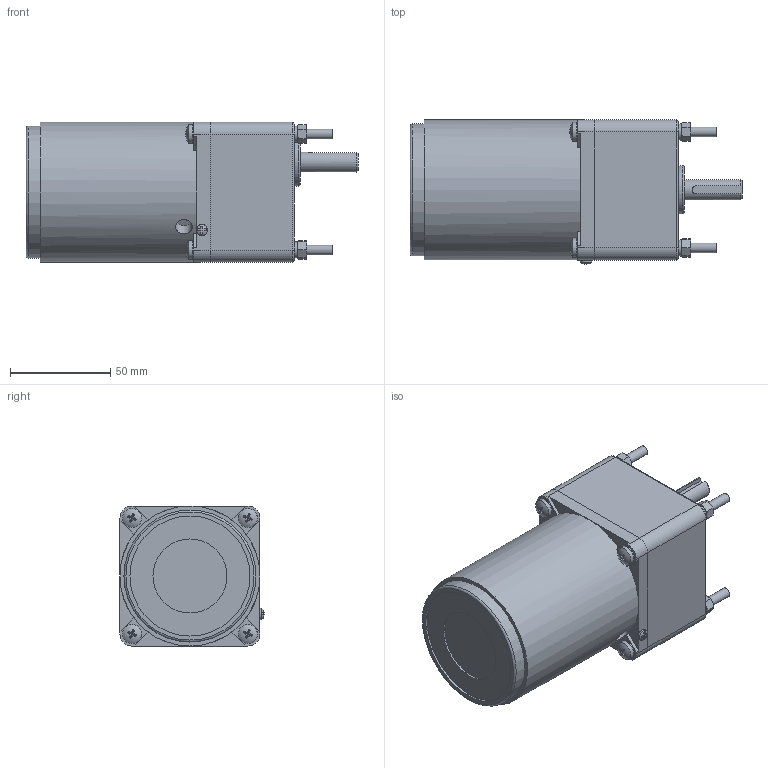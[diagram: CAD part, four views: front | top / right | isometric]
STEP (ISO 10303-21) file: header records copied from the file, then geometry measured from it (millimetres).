
FILE_DESCRIPTION(/* description */ (''),/* implementation_level */ '2;1');
FILE_NAME(/* name */ '70高箱T-25普通.stp',/* time_stamp */ '2022-10-31T09:45:38+08:00',/* author */ (''),/* organization */ (''),/* preprocessor_version */ 'ST-DEVELOPER v16.7',/* originating_system */ 'SIEMENS PLM Software NX 1899',/* authorisation */ '');
FILE_SCHEMA (('AP203_CONFIGURATION_CONTROLLED_3D_DESIGN_OF_MECHANICAL_PARTS_AND_ASSEMBLIES_MIM_LF { 1 0 10303 403 2 1 2}'));
Length unit declared in the file: millimetre
Products named in the file (1): yf186188FEB6lcda
Bounding box: 166 x 72.04 x 70 mm (x, y, z)
Volume: 561406.2 mm3; surface area: 65026.8 mm2
Topology: 22 solids, 23 shells, 389 faces, 908 edges, 584 vertices
Faces by surface type: plane 156, bspline 80, cylinder 74, cone 63, torus 11, sphere 5
Full cylindrical faces by diameter (mm): 2.7 x1, 4.351 x4, 4.826 x4, 5 x4, 5.3 x8, 5.6 x1, 6 x9, 8.3 x1, 9 x8, 9.5 x4, 10 x1, 24 x1, 37 x1, 60 x1, 63 x1, 66 x1, 66.6 x2, 70 x1
Entity records: 12285 total; most frequent: CARTESIAN_POINT 3263, ORIENTED_EDGE 1604, DIRECTION 1393, EDGE_CURVE 802, AXIS2_PLACEMENT_3D 601, VERTEX_POINT 556, EDGE_LOOP 525, ADVANCED_FACE 389
